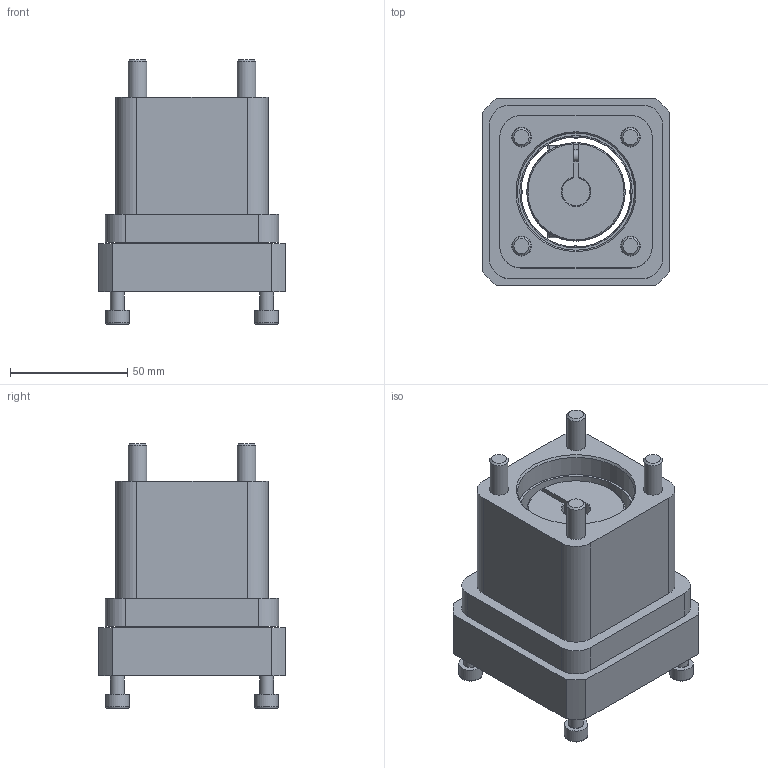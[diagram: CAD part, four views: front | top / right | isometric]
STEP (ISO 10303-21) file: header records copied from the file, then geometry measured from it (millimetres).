
FILE_DESCRIPTION(/* description */ ('EAMK-A O-Coupling housing'),/* implementation_level */ '2;1');
FILE_NAME(/* name */ 'C:\STORE\ホームページ用データ\\X2\30E230FC30BF53D64ED830AD30C330C8\X0\_2016_追加\3D_STEP\J09601.stp',/* time_stamp */ '2016-03-08T10:04:05+09:00',/* author */ ('jp4te01'),/* organization */ ('FESTO'),/* preprocessor_version */ 'ST-DEVELOPER v15.6',/* originating_system */ 'Autodesk Inventor 2015',/* authorisation */ '');
FILE_SCHEMA (('AUTOMOTIVE_DESIGN { 1 0 10303 214 3 1 1 }'));
Length unit declared in the file: millimetre
Products named in the file (8): 2836865 EAMK-A-D50-64C---(1O); DIN-912 - M8x65(F); 2836865 EAMK-A-D50-64C; 551005_EAMC_42_50_12_19; J09668; コピー版 JIS B 1176 - M6 x 15; コピー版 JIS B 1176 - M6 x 20; J09601
Bounding box: 80 x 80 x 113 mm (x, y, z)
Volume: 301528.2 mm3; surface area: 90574.4 mm2
Topology: 15 solids, 15 shells, 397 faces, 914 edges, 576 vertices
Faces by surface type: plane 203, cone 90, cylinder 86, torus 18
Full cylindrical faces by diameter (mm): 4.917 x8, 5 x4, 6 x8, 6.6 x4, 8 x4, 8.4 x4, 8.5 x2, 10 x8, 13 x4, 15 x4, 40 x2, 42 x1, 47 x1, 48 x1, 50 x1, 64 x1, 70 x1
Entity records: 6427 total; most frequent: CARTESIAN_POINT 1268, DIRECTION 1086, ORIENTED_EDGE 906, EDGE_CURVE 453, AXIS2_PLACEMENT_3D 442, EDGE_LOOP 341, VERTEX_POINT 328, FACE_OUTER_BOUND 223
